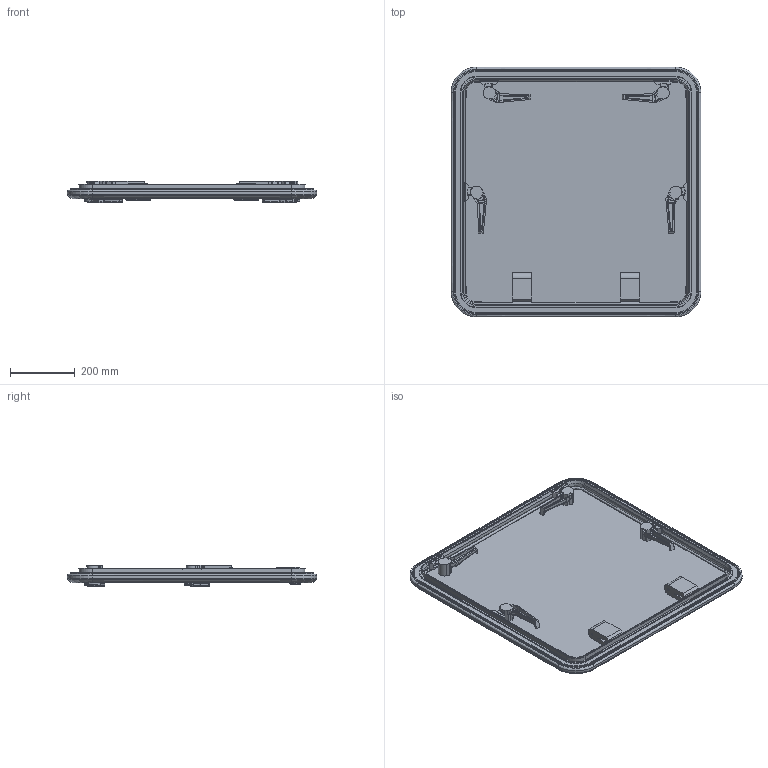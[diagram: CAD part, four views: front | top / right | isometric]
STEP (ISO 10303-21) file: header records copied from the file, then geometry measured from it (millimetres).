
FILE_DESCRIPTION((''),'2;1');
FILE_NAME('LEWMAR-HATCH-MEDPRO-77_ASM','2008-02-04T',('skennedy'),(''),'PRO/ENGINEER BY PARAMETRIC TECHNOLOGY CORPORATION, 2007030','PRO/ENGINEER BY PARAMETRIC TECHNOLOGY CORPORATION, 2007030','');
FILE_SCHEMA(('CONFIG_CONTROL_DESIGN'));
Length unit declared in the file: millimetre
Products named in the file (6): FRAME_MP_77; 3597743X; HANDLE_RHS; HANDLE_LHS; HINGE_LEVER; LEWMAR-HATCH-MEDPRO-77_ASM
Assembly tree (8 placements, depth 2):
  LEWMAR-HATCH-MEDPRO-77_ASM
    FRAME_MP_77
    3597743X
    HANDLE_RHS  x2
    HANDLE_LHS  x2
    HINGE_LEVER  x2
Bounding box: 770 x 770 x 65.24 mm (x, y, z)
Volume: 6738269.4 mm3; surface area: 1856900.5 mm2
Topology: 5 solids, 8 shells, 1756 faces, 4536 edges, 2812 vertices
Faces by surface type: plane 666, bspline 502, cylinder 330, torus 82, extrusion 70, cone 66, sphere 40
Entity records: 41749 total; most frequent: CARTESIAN_POINT 19464, ORIENTED_EDGE 5146, DIRECTION 3674, EDGE_CURVE 2575, VERTEX_POINT 1602, AXIS2_PLACEMENT_3D 1261, VECTOR 1152, LINE 1117
